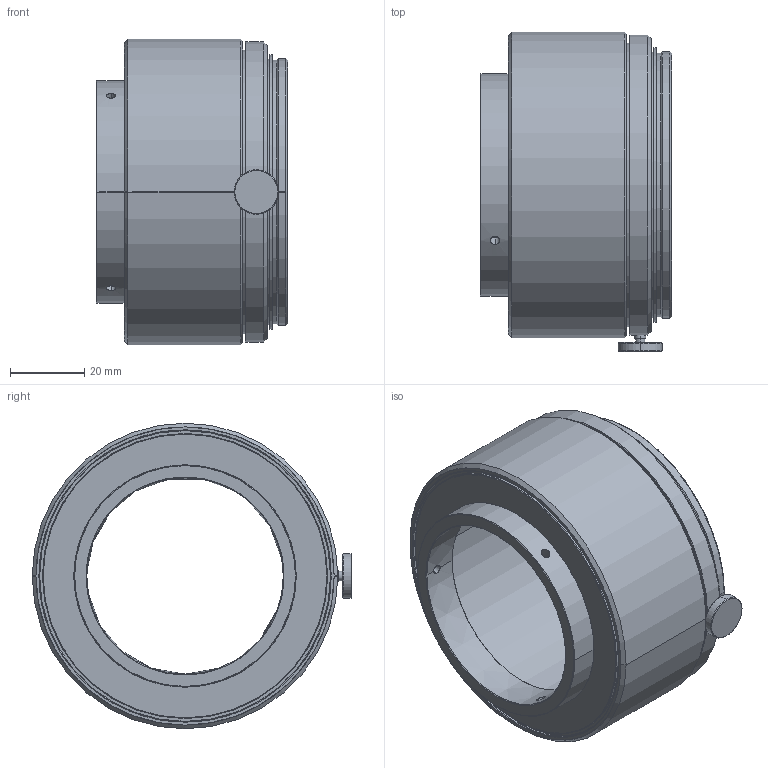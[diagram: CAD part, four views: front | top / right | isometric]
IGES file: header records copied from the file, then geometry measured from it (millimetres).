
Start section: SolidWorks IGES file using analytic representation for surfaces
Global section: file name: C:\Users\tsuji_vst\Documents\【図面】\_3D\00 VST\マウントアダプタ\VS-FR20-53V_M72.IGS; native system: SolidWorks 2017; preprocessor: SolidWorks 2017; author: tsuji_vst; date: 170105.093434; units: millimetre
Bounding box: 51.7 x 86.25 x 82.5 mm (x, y, z)
Surface area: 31571.7 mm2 (no closed solid volume)
Topology: 0 solids, 0 shells, 93 faces, 2336 edges, 2336 vertices
Faces by surface type: revolution 78, bspline 15
